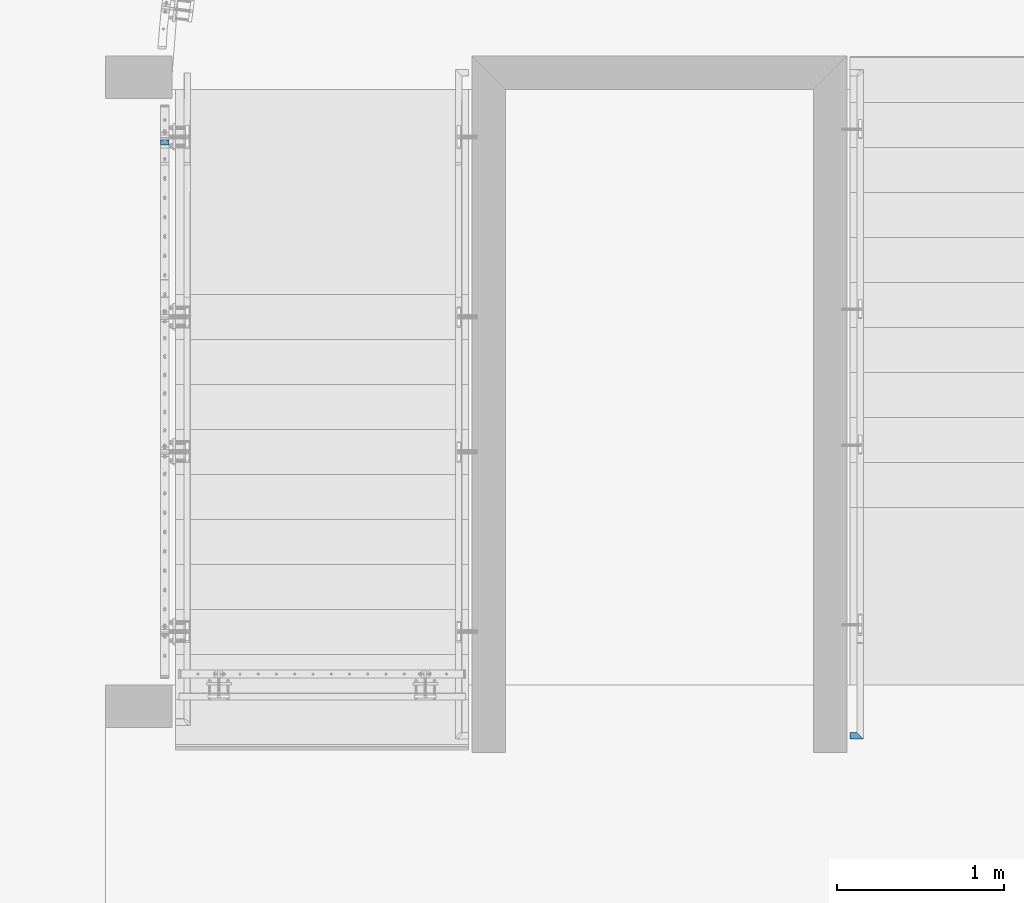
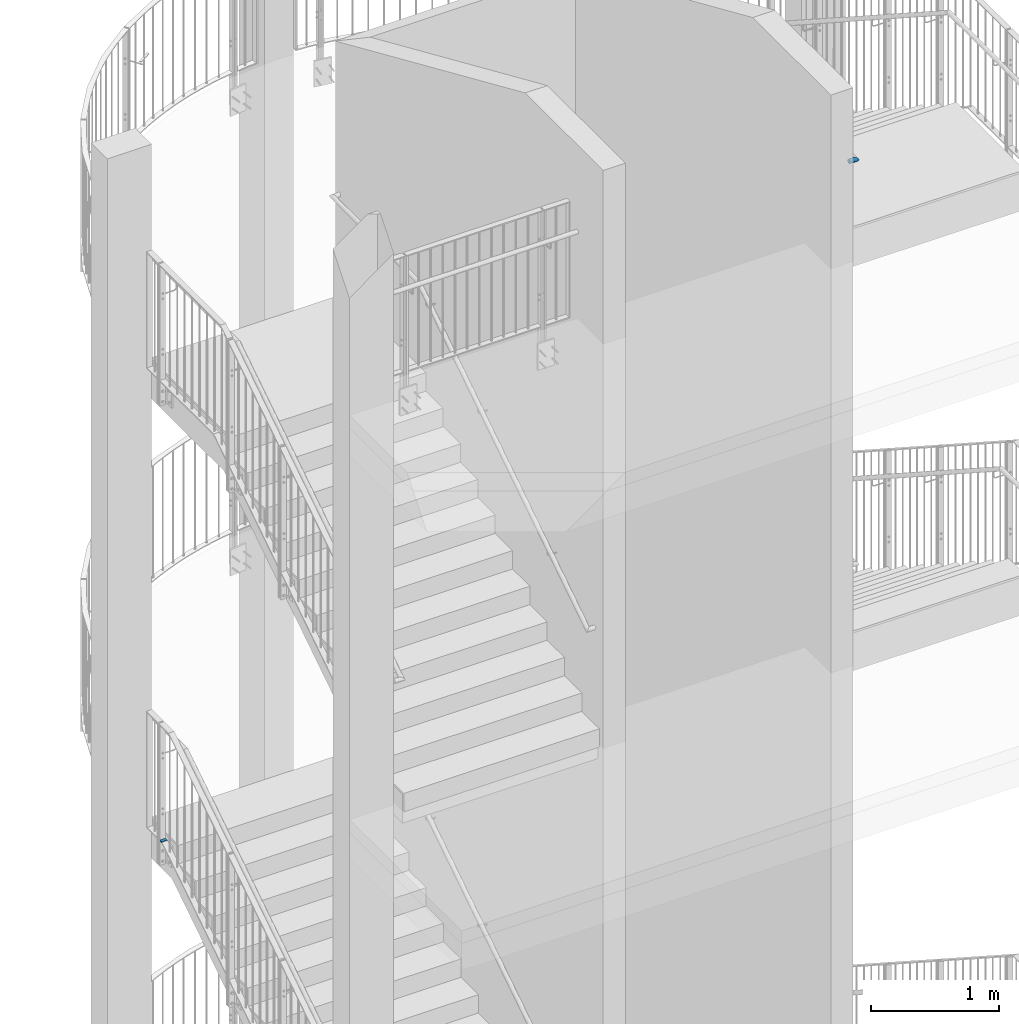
# One storey, part 101 of 296: 2 beams.
"""IFC2X3 building model written with IfcOpenShell, lengths in millimetres."""

from ifc_helpers import new_model, entity, si_unit, converted_unit, frame, origin, origin_with_axes, origin_2d, place, context, project, spatial, rectangle, circle, extrude, clip, halfspace, material, element, save


model = new_model("IFC2X3")

# Units and contexts
model_context = context("Model", 3, precision=1e-09, world=origin_with_axes())
ifc_project = project(units=[si_unit("LENGTHUNIT", "METRE", prefix="MILLI"), si_unit("AREAUNIT", "SQUARE_METRE"), si_unit("VOLUMEUNIT", "CUBIC_METRE"), converted_unit("PLANEANGLEUNIT", "DEGREE", entity("IfcPlaneAngleMeasure", 0.01745329), si_unit("PLANEANGLEUNIT", "RADIAN"), dimensions=[0, 0, 0, 0, 0, 0, 0])], contexts=[model_context])

# Site, building, storey
site_placement = place(None, origin_with_axes())
site = spatial("IfcSite", under=ifc_project, at=site_placement, Name="TZD-S?d | Treppenhausgel?nder", CompositionType="ELEMENT")
building_placement = place(site_placement, origin_with_axes())
building = spatial("IfcBuilding", under=site, at=building_placement, Name="Struktur 1", CompositionType="ELEMENT")
storey_placement = place(building_placement, origin_with_axes())
storey = spatial("IfcBuildingStorey", under=building, at=storey_placement, Name="Default Storey", CompositionType="ELEMENT", Elevation=0.0)

# Beams
ifc_material_1 = material(Name="Buche")
beam_1_placement = place(None, frame((4069.999, -4080.0, 14530.0), z_axis=(-1.0, 0.0, 0.0), x_axis=(0.0, -1.0, 0.0)))
element("IfcBeam", 1, at=beam_1_placement, inside=storey, material=ifc_material_1, Name="Girder", ObjectType="Girder", context=model_context, shape_type="Clipping", body=[
    clip(extrude(circle(Radius=20.0, at=origin_2d()), origin(), (0.0, 0.0, -1.0), 100.0), halfspace(frame((-4104.998792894, -14530.0, 4045.000207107), z_axis=(0.707106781, 0.0, 0.707106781), x_axis=(0.707106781, 0.0, -0.707106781)), True)),
])
ifc_material_2 = material(Name="S235JR")
beam_2_placement = place(None, frame((-45.0, -502.5, 7344.999), z_axis=(0.0, 1.0, 0.0), x_axis=(0.0, 0.0, 1.0)))
element("IfcBeam", 2, at=beam_2_placement, inside=storey, material=ifc_material_2, Name="-", ObjectType="-", context=model_context, shape_type="Clipping", body=[
    clip(extrude(rectangle(XDim=10.0, YDim=50.0, at=origin_2d()), origin(), (0.0, 0.0, -1.0), 57.066628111), halfspace(frame((-6902.843694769, 45.0, 2003.24948324), z_axis=(0.282612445, 0.0, 0.959234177), x_axis=(0.0, -1.0, 0.0)), True)),
])

save(model, "model.ifc")
